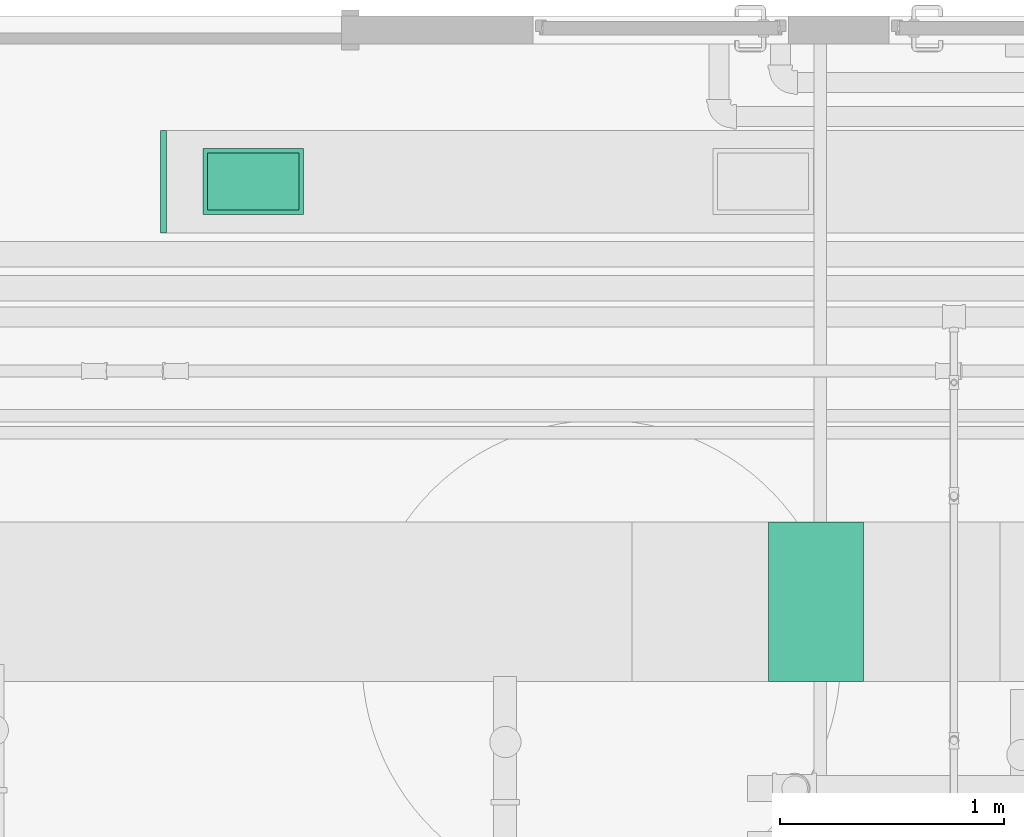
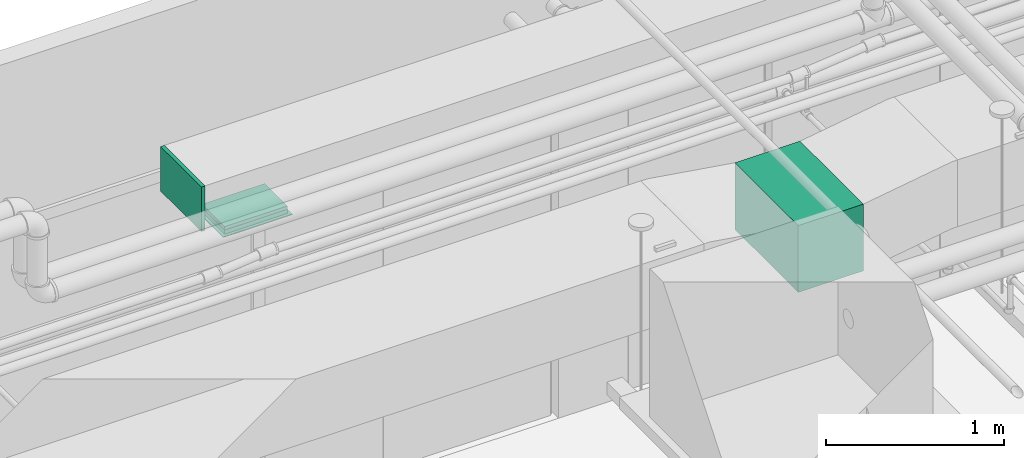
# One storey, part 59 of 108: 2 duct segments, 1 air terminal, 1 duct fitting.
"""IFC4 building model written with IfcOpenShell, lengths in feet."""

from ifc_helpers import new_model, entity, si_unit, converted_unit, derived_unit, direction, frame, frame_2d, origin, origin_2d_with_axis, place, context, subcontext, project, spatial, rectangle, extrude, source, transform, mapped, type_object, type_shapes, element, save


model = new_model("IFC4")

# Units and contexts
model_context = context("Model", 3, precision=0.0001, world=origin(), true_north=direction((6.12303176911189e-17, 1.0)))
body_context = subcontext(model_context, "Body", "Model", "MODEL_VIEW")
ifc_project = project(units=[converted_unit("LENGTHUNIT", "FOOT", entity("IfcRatioMeasure", 0.3048), si_unit("LENGTHUNIT", "METRE"), dimensions=[1, 0, 0, 0, 0, 0, 0]), converted_unit("AREAUNIT", "SQUARE FOOT", entity("IfcRatioMeasure", 0.09290304), si_unit("AREAUNIT", "SQUARE_METRE"), dimensions=[2, 0, 0, 0, 0, 0, 0]), converted_unit("VOLUMEUNIT", "CUBIC FOOT", entity("IfcRatioMeasure", 0.028316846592), si_unit("VOLUMEUNIT", "CUBIC_METRE"), dimensions=[3, 0, 0, 0, 0, 0, 0]), converted_unit("PLANEANGLEUNIT", "DEGREE", entity("IfcRatioMeasure", 0.0174532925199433), si_unit("PLANEANGLEUNIT", "RADIAN"), dimensions=[0, 0, 0, 0, 0, 0, 0]), si_unit("MASSUNIT", "GRAM", prefix="KILO"), derived_unit("MASSDENSITYUNIT", [(si_unit("MASSUNIT", "GRAM", prefix="KILO"), 1), (si_unit("LENGTHUNIT", "METRE"), -3)]), si_unit("TIMEUNIT", "SECOND"), si_unit("FREQUENCYUNIT", "HERTZ"), si_unit("THERMODYNAMICTEMPERATUREUNIT", "DEGREE_CELSIUS"), derived_unit("THERMALTRANSMITTANCEUNIT", [(si_unit("MASSUNIT", "GRAM", prefix="KILO"), 1), (si_unit("THERMODYNAMICTEMPERATUREUNIT", "KELVIN"), -1), (si_unit("TIMEUNIT", "SECOND"), -3)]), derived_unit("VOLUMETRICFLOWRATEUNIT", [(si_unit("LENGTHUNIT", "METRE"), 3), (si_unit("TIMEUNIT", "SECOND"), -1)]), si_unit("ELECTRICCURRENTUNIT", "AMPERE"), si_unit("ELECTRICVOLTAGEUNIT", "VOLT"), si_unit("POWERUNIT", "WATT"), si_unit("FORCEUNIT", "NEWTON"), si_unit("ILLUMINANCEUNIT", "LUX"), si_unit("LUMINOUSFLUXUNIT", "LUMEN"), si_unit("LUMINOUSINTENSITYUNIT", "CANDELA"), derived_unit("USERDEFINED", [(si_unit("MASSUNIT", "GRAM", prefix="KILO"), -1), (si_unit("LENGTHUNIT", "METRE"), -2), (si_unit("TIMEUNIT", "SECOND"), 3), (si_unit("LUMINOUSFLUXUNIT", "LUMEN"), 1)]), derived_unit("LINEARVELOCITYUNIT", [(si_unit("LENGTHUNIT", "METRE"), 1), (si_unit("TIMEUNIT", "SECOND"), -1)]), si_unit("PRESSUREUNIT", "PASCAL"), derived_unit("USERDEFINED", [(si_unit("LENGTHUNIT", "METRE"), -2), (si_unit("MASSUNIT", "GRAM", prefix="KILO"), 1), (si_unit("TIMEUNIT", "SECOND"), -2)])], contexts=[model_context])

# Site, building, storey
site_placement = place(None, origin())
site = spatial("IfcSite", under=ifc_project, at=site_placement, Name="Default", CompositionType="ELEMENT")
building_placement = place(site_placement, origin())
building = spatial("IfcBuilding", under=site, at=building_placement, CompositionType="ELEMENT")
storey_placement = place(building_placement, frame((0.0, 0.0, 168.0)))
storey = spatial("IfcBuildingStorey", under=building, at=storey_placement, Name="Level 15", CompositionType="ELEMENT", Elevation=168.0)

# Duct segments
duct_segment_type = type_object("IfcDuctSegmentType", Name="Rectangular Duct:Square Throat Elbows / S&D", PredefinedType="NOTDEFINED")
duct_segment_1_placement = place(storey_placement, frame((-44.4244066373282, 12.7762257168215, 8.67447916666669)))
element("IfcDuctSegment", 1, at=duct_segment_1_placement, inside=storey, type_object=duct_segment_type, Name="Rectangular Duct:Square Throat Elbows / S&D", ObjectType="Rectangular Duct:Square Throat Elbows / S&D", PredefinedType="NOTDEFINED", context=body_context, shape_type="SweptSolid", body=[
    extrude(rectangle(XDim=1.33333333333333, YDim=0.833333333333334, at=frame_2d((-7.105427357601e-15, -8.88178419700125e-16), x_axis=(1.0, 0.0))), frame((0.666666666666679, 0.416666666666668, 0.0)), (0.0, 0.0, 1.0), 0.0755208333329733),
])
duct_segment_2_placement = place(storey_placement, frame((-36.2167979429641, 5.87655734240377, 8.58333333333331)))
element("IfcDuctSegment", 2, at=duct_segment_2_placement, inside=storey, type_object=duct_segment_type, Name="Rectangular Duct:Square Throat Elbows / S&D", ObjectType="Rectangular Duct:Square Throat Elbows / S&D", PredefinedType="NOTDEFINED", context=body_context, shape_type="SweptSolid", body=[
    extrude(rectangle(XDim=1.38527356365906, YDim=2.33333333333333, at=origin_2d_with_axis()), frame((0.692636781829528, 1.16666666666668, 0.0)), (0.0, 0.0, 1.0), 1.5),
])

# Duct fitting
duct_fitting_type = type_object("IfcDuctFittingType", Name="Standard", PredefinedType="NOTDEFINED")
shared_shape_1 = source(origin(), body_context, "Body", "SweptSolid", [
    extrude(rectangle(XDim=1.5, YDim=0.0833333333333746, at=frame_2d((0.0, 6.17561557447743e-16), x_axis=(1.0, 0.0))), frame((0.0416666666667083, 0.0, -0.500000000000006), z_axis=(0.0, 0.0, 1.0), x_axis=(0.0, -1.0, 0.0)), (0.0, 0.0, 1.0), 1.0),
])
type_shapes(duct_fitting_type, [shared_shape_1])
duct_fitting_placement = place(storey_placement, frame((-45.0291870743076, 13.1928923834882, 9.583333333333), z_axis=(0.0, 0.0, 1.0), x_axis=(-1.0, 0.0, 0.0)))
element("IfcDuctFitting", 3, at=duct_fitting_placement, inside=storey, type_object=duct_fitting_type, Name="Rectangular Endcap:Standard", ObjectType="Rectangular Endcap:Standard", PredefinedType="NOTDEFINED", context=body_context, shape_type="MappedRepresentation", body=[
    mapped(shared_shape_1, transform((0.0, 0.0, 0.0), scale=1.0)),
])

# Air terminal
air_terminal_type = type_object("IfcAirTerminalType", Name="16x10", PredefinedType="NOTDEFINED")
cartesian_point_1 = entity("IfcCartesianPoint", [0.734375, -0.015625, 0.484374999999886])
vertex_point_1 = entity("IfcVertexPoint", cartesian_point_1)
cartesian_point_2 = entity("IfcCartesianPoint", [-0.734375, -0.015625, 0.484374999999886])
vertex_point_2 = entity("IfcVertexPoint", cartesian_point_2)
ifc_direction_1 = entity("IfcDirection", [-1.0, 0.0, 0.0])
edge_curve_1 = entity("IfcEdgeCurve", vertex_point_1, vertex_point_2, entity("IfcTrimmedCurve", entity("IfcLine", cartesian_point_1, entity("IfcVector", ifc_direction_1, 1.0)), [cartesian_point_1], [cartesian_point_2], True, "CARTESIAN"), True)
cartesian_point_3 = entity("IfcCartesianPoint", [-0.734375, -0.015625, -0.484374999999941])
vertex_point_3 = entity("IfcVertexPoint", cartesian_point_3)
ifc_direction_2 = entity("IfcDirection", [0.0, 0.0, -1.0])
edge_curve_2 = entity("IfcEdgeCurve", vertex_point_2, vertex_point_3, entity("IfcTrimmedCurve", entity("IfcLine", cartesian_point_2, entity("IfcVector", ifc_direction_2, 1.0)), [cartesian_point_2], [cartesian_point_3], True, "CARTESIAN"), True)
cartesian_point_4 = entity("IfcCartesianPoint", [0.734375, -0.015625, -0.484374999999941])
vertex_point_4 = entity("IfcVertexPoint", cartesian_point_4)
ifc_direction_3 = entity("IfcDirection", [1.0, 0.0, 0.0])
edge_curve_3 = entity("IfcEdgeCurve", vertex_point_3, vertex_point_4, entity("IfcTrimmedCurve", entity("IfcLine", cartesian_point_3, entity("IfcVector", ifc_direction_3, 1.0)), [cartesian_point_3], [cartesian_point_4], True, "CARTESIAN"), True)
ifc_direction_4 = entity("IfcDirection", [0.0, 0.0, 1.0])
edge_curve_4 = entity("IfcEdgeCurve", vertex_point_4, vertex_point_1, entity("IfcTrimmedCurve", entity("IfcLine", cartesian_point_4, entity("IfcVector", ifc_direction_4, 1.0)), [cartesian_point_4], [cartesian_point_1], True, "CARTESIAN"), True)
ifc_direction_5 = entity("IfcDirection", [0.0, -1.0, 0.0])
cartesian_point_5 = entity("IfcCartesianPoint", [0.734375, 0.0, 0.484374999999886])
vertex_point_5 = entity("IfcVertexPoint", cartesian_point_5)
cartesian_point_6 = entity("IfcCartesianPoint", [0.734375, 0.0, -0.484374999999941])
vertex_point_6 = entity("IfcVertexPoint", cartesian_point_6)
edge_curve_5 = entity("IfcEdgeCurve", vertex_point_5, vertex_point_6, entity("IfcTrimmedCurve", entity("IfcLine", cartesian_point_5, entity("IfcVector", ifc_direction_2, 1.0)), [cartesian_point_5], [cartesian_point_6], True, "CARTESIAN"), True)
cartesian_point_7 = entity("IfcCartesianPoint", [-0.734375, 0.0, -0.484374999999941])
vertex_point_7 = entity("IfcVertexPoint", cartesian_point_7)
edge_curve_6 = entity("IfcEdgeCurve", vertex_point_6, vertex_point_7, entity("IfcTrimmedCurve", entity("IfcLine", cartesian_point_6, entity("IfcVector", ifc_direction_1, 1.0)), [cartesian_point_6], [cartesian_point_7], True, "CARTESIAN"), True)
cartesian_point_8 = entity("IfcCartesianPoint", [-0.734375, 0.0, 0.484374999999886])
vertex_point_8 = entity("IfcVertexPoint", cartesian_point_8)
edge_curve_7 = entity("IfcEdgeCurve", vertex_point_7, vertex_point_8, entity("IfcTrimmedCurve", entity("IfcLine", cartesian_point_7, entity("IfcVector", ifc_direction_4, 1.0)), [cartesian_point_7], [cartesian_point_8], True, "CARTESIAN"), True)
edge_curve_8 = entity("IfcEdgeCurve", vertex_point_8, vertex_point_5, entity("IfcTrimmedCurve", entity("IfcLine", cartesian_point_8, entity("IfcVector", ifc_direction_3, 1.0)), [cartesian_point_8], [cartesian_point_5], True, "CARTESIAN"), True)
cartesian_point_9 = entity("IfcCartesianPoint", [-0.666666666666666, 0.0, 0.416666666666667])
vertex_point_9 = entity("IfcVertexPoint", cartesian_point_9)
cartesian_point_10 = entity("IfcCartesianPoint", [-0.666666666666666, 0.0, -0.416666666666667])
vertex_point_10 = entity("IfcVertexPoint", cartesian_point_10)
edge_curve_9 = entity("IfcEdgeCurve", vertex_point_9, vertex_point_10, entity("IfcTrimmedCurve", entity("IfcLine", cartesian_point_9, entity("IfcVector", ifc_direction_2, 1.0)), [cartesian_point_9], [cartesian_point_10], True, "CARTESIAN"), True)
cartesian_point_11 = entity("IfcCartesianPoint", [0.666666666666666, 0.0, -0.416666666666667])
vertex_point_11 = entity("IfcVertexPoint", cartesian_point_11)
edge_curve_10 = entity("IfcEdgeCurve", vertex_point_10, vertex_point_11, entity("IfcTrimmedCurve", entity("IfcLine", cartesian_point_10, entity("IfcVector", ifc_direction_3, 1.0)), [cartesian_point_10], [cartesian_point_11], True, "CARTESIAN"), True)
cartesian_point_12 = entity("IfcCartesianPoint", [0.666666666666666, 0.0, 0.416666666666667])
vertex_point_12 = entity("IfcVertexPoint", cartesian_point_12)
edge_curve_11 = entity("IfcEdgeCurve", vertex_point_11, vertex_point_12, entity("IfcTrimmedCurve", entity("IfcLine", cartesian_point_11, entity("IfcVector", ifc_direction_4, 1.0)), [cartesian_point_11], [cartesian_point_12], True, "CARTESIAN"), True)
edge_curve_12 = entity("IfcEdgeCurve", vertex_point_12, vertex_point_9, entity("IfcTrimmedCurve", entity("IfcLine", cartesian_point_12, entity("IfcVector", ifc_direction_1, 1.0)), [cartesian_point_12], [cartesian_point_9], True, "CARTESIAN"), True)
ifc_direction_6 = entity("IfcDirection", [0.0, 1.0, 0.0])
edge_curve_13 = entity("IfcEdgeCurve", vertex_point_1, vertex_point_5, entity("IfcTrimmedCurve", entity("IfcLine", cartesian_point_1, entity("IfcVector", ifc_direction_6, 1.0)), [cartesian_point_1], [cartesian_point_5], True, "CARTESIAN"), True)
edge_curve_14 = entity("IfcEdgeCurve", vertex_point_8, vertex_point_2, entity("IfcTrimmedCurve", entity("IfcLine", cartesian_point_2, entity("IfcVector", ifc_direction_5, 1.0)), [cartesian_point_8], [cartesian_point_2], True, "CARTESIAN"), True)
edge_curve_15 = entity("IfcEdgeCurve", vertex_point_7, vertex_point_3, entity("IfcTrimmedCurve", entity("IfcLine", cartesian_point_3, entity("IfcVector", ifc_direction_5, 1.0)), [cartesian_point_7], [cartesian_point_3], True, "CARTESIAN"), True)
edge_curve_16 = entity("IfcEdgeCurve", vertex_point_6, vertex_point_4, entity("IfcTrimmedCurve", entity("IfcLine", cartesian_point_4, entity("IfcVector", ifc_direction_5, 1.0)), [cartesian_point_6], [cartesian_point_4], True, "CARTESIAN"), True)
cartesian_point_13 = entity("IfcCartesianPoint", [-0.666666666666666, 0.08984375, 0.416666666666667])
vertex_point_13 = entity("IfcVertexPoint", cartesian_point_13)
cartesian_point_14 = entity("IfcCartesianPoint", [0.666666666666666, 0.08984375, 0.416666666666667])
vertex_point_14 = entity("IfcVertexPoint", cartesian_point_14)
edge_curve_17 = entity("IfcEdgeCurve", vertex_point_13, vertex_point_14, entity("IfcTrimmedCurve", entity("IfcLine", cartesian_point_13, entity("IfcVector", ifc_direction_3, 1.0)), [cartesian_point_13], [cartesian_point_14], True, "CARTESIAN"), True)
cartesian_point_15 = entity("IfcCartesianPoint", [0.666666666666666, 0.08984375, -0.416666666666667])
vertex_point_15 = entity("IfcVertexPoint", cartesian_point_15)
edge_curve_18 = entity("IfcEdgeCurve", vertex_point_14, vertex_point_15, entity("IfcTrimmedCurve", entity("IfcLine", cartesian_point_14, entity("IfcVector", ifc_direction_2, 1.0)), [cartesian_point_14], [cartesian_point_15], True, "CARTESIAN"), True)
cartesian_point_16 = entity("IfcCartesianPoint", [-0.666666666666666, 0.08984375, -0.416666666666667])
vertex_point_16 = entity("IfcVertexPoint", cartesian_point_16)
edge_curve_19 = entity("IfcEdgeCurve", vertex_point_15, vertex_point_16, entity("IfcTrimmedCurve", entity("IfcLine", cartesian_point_15, entity("IfcVector", ifc_direction_1, 1.0)), [cartesian_point_15], [cartesian_point_16], True, "CARTESIAN"), True)
edge_curve_20 = entity("IfcEdgeCurve", vertex_point_16, vertex_point_13, entity("IfcTrimmedCurve", entity("IfcLine", cartesian_point_16, entity("IfcVector", ifc_direction_4, 1.0)), [cartesian_point_16], [cartesian_point_13], True, "CARTESIAN"), True)
cartesian_point_17 = entity("IfcCartesianPoint", [-0.645833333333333, 0.08984375, 0.395833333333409])
vertex_point_17 = entity("IfcVertexPoint", cartesian_point_17)
cartesian_point_18 = entity("IfcCartesianPoint", [-0.645833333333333, 0.08984375, -0.39583333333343])
vertex_point_18 = entity("IfcVertexPoint", cartesian_point_18)
edge_curve_21 = entity("IfcEdgeCurve", vertex_point_17, vertex_point_18, entity("IfcTrimmedCurve", entity("IfcLine", cartesian_point_17, entity("IfcVector", ifc_direction_2, 1.0)), [cartesian_point_17], [cartesian_point_18], True, "CARTESIAN"), True)
cartesian_point_19 = entity("IfcCartesianPoint", [0.645833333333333, 0.08984375, -0.39583333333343])
vertex_point_19 = entity("IfcVertexPoint", cartesian_point_19)
edge_curve_22 = entity("IfcEdgeCurve", vertex_point_18, vertex_point_19, entity("IfcTrimmedCurve", entity("IfcLine", cartesian_point_18, entity("IfcVector", ifc_direction_3, 1.0)), [cartesian_point_18], [cartesian_point_19], True, "CARTESIAN"), True)
cartesian_point_20 = entity("IfcCartesianPoint", [0.645833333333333, 0.08984375, 0.395833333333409])
vertex_point_20 = entity("IfcVertexPoint", cartesian_point_20)
edge_curve_23 = entity("IfcEdgeCurve", vertex_point_19, vertex_point_20, entity("IfcTrimmedCurve", entity("IfcLine", cartesian_point_19, entity("IfcVector", ifc_direction_4, 1.0)), [cartesian_point_19], [cartesian_point_20], True, "CARTESIAN"), True)
edge_curve_24 = entity("IfcEdgeCurve", vertex_point_20, vertex_point_17, entity("IfcTrimmedCurve", entity("IfcLine", cartesian_point_20, entity("IfcVector", ifc_direction_1, 1.0)), [cartesian_point_20], [cartesian_point_17], True, "CARTESIAN"), True)
edge_curve_25 = entity("IfcEdgeCurve", vertex_point_16, vertex_point_10, entity("IfcTrimmedCurve", entity("IfcLine", cartesian_point_10, entity("IfcVector", ifc_direction_5, 1.0)), [cartesian_point_16], [cartesian_point_10], True, "CARTESIAN"), True)
edge_curve_26 = entity("IfcEdgeCurve", vertex_point_9, vertex_point_13, entity("IfcTrimmedCurve", entity("IfcLine", cartesian_point_9, entity("IfcVector", ifc_direction_6, 1.0)), [cartesian_point_9], [cartesian_point_13], True, "CARTESIAN"), True)
edge_curve_27 = entity("IfcEdgeCurve", vertex_point_15, vertex_point_11, entity("IfcTrimmedCurve", entity("IfcLine", cartesian_point_11, entity("IfcVector", ifc_direction_5, 1.0)), [cartesian_point_15], [cartesian_point_11], True, "CARTESIAN"), True)
edge_curve_28 = entity("IfcEdgeCurve", vertex_point_14, vertex_point_12, entity("IfcTrimmedCurve", entity("IfcLine", cartesian_point_12, entity("IfcVector", ifc_direction_5, 1.0)), [cartesian_point_14], [cartesian_point_12], True, "CARTESIAN"), True)
cartesian_point_21 = entity("IfcCartesianPoint", [-0.645833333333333, 0.0911458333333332, 0.395833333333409])
vertex_point_21 = entity("IfcVertexPoint", cartesian_point_21)
cartesian_point_22 = entity("IfcCartesianPoint", [0.645833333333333, 0.0911458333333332, 0.395833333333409])
vertex_point_22 = entity("IfcVertexPoint", cartesian_point_22)
edge_curve_29 = entity("IfcEdgeCurve", vertex_point_21, vertex_point_22, entity("IfcTrimmedCurve", entity("IfcLine", cartesian_point_21, entity("IfcVector", ifc_direction_3, 1.0)), [cartesian_point_21], [cartesian_point_22], True, "CARTESIAN"), True)
cartesian_point_23 = entity("IfcCartesianPoint", [0.645833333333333, 0.0911458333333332, -0.39583333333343])
vertex_point_23 = entity("IfcVertexPoint", cartesian_point_23)
edge_curve_30 = entity("IfcEdgeCurve", vertex_point_22, vertex_point_23, entity("IfcTrimmedCurve", entity("IfcLine", cartesian_point_22, entity("IfcVector", ifc_direction_2, 1.0)), [cartesian_point_22], [cartesian_point_23], True, "CARTESIAN"), True)
cartesian_point_24 = entity("IfcCartesianPoint", [-0.645833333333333, 0.0911458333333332, -0.39583333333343])
vertex_point_24 = entity("IfcVertexPoint", cartesian_point_24)
edge_curve_31 = entity("IfcEdgeCurve", vertex_point_23, vertex_point_24, entity("IfcTrimmedCurve", entity("IfcLine", cartesian_point_23, entity("IfcVector", ifc_direction_1, 1.0)), [cartesian_point_23], [cartesian_point_24], True, "CARTESIAN"), True)
edge_curve_32 = entity("IfcEdgeCurve", vertex_point_24, vertex_point_21, entity("IfcTrimmedCurve", entity("IfcLine", cartesian_point_24, entity("IfcVector", ifc_direction_4, 1.0)), [cartesian_point_24], [cartesian_point_21], True, "CARTESIAN"), True)
edge_curve_33 = entity("IfcEdgeCurve", vertex_point_24, vertex_point_18, entity("IfcTrimmedCurve", entity("IfcLine", cartesian_point_18, entity("IfcVector", ifc_direction_5, 1.0)), [cartesian_point_24], [cartesian_point_18], True, "CARTESIAN"), True)
edge_curve_34 = entity("IfcEdgeCurve", vertex_point_17, vertex_point_21, entity("IfcTrimmedCurve", entity("IfcLine", cartesian_point_17, entity("IfcVector", ifc_direction_6, 1.0)), [cartesian_point_17], [cartesian_point_21], True, "CARTESIAN"), True)
edge_curve_35 = entity("IfcEdgeCurve", vertex_point_23, vertex_point_19, entity("IfcTrimmedCurve", entity("IfcLine", cartesian_point_19, entity("IfcVector", ifc_direction_5, 1.0)), [cartesian_point_23], [cartesian_point_19], True, "CARTESIAN"), True)
edge_curve_36 = entity("IfcEdgeCurve", vertex_point_22, vertex_point_20, entity("IfcTrimmedCurve", entity("IfcLine", cartesian_point_20, entity("IfcVector", ifc_direction_5, 1.0)), [cartesian_point_22], [cartesian_point_20], True, "CARTESIAN"), True)
shared_shape_2 = source(origin(), body_context, "Body", "AdvancedBrep", [
    entity("IfcAdvancedBrep", entity("IfcClosedShell", [entity("IfcAdvancedFace", [entity("IfcFaceOuterBound", entity("IfcEdgeLoop", [entity("IfcOrientedEdge", None, None, edge_curve_1, True), entity("IfcOrientedEdge", None, None, edge_curve_2, True), entity("IfcOrientedEdge", None, None, edge_curve_3, True), entity("IfcOrientedEdge", None, None, edge_curve_4, True)]), True)], entity("IfcPlane", entity("IfcAxis2Placement3D", cartesian_point_2, ifc_direction_5, ifc_direction_1)), True), entity("IfcAdvancedFace", [entity("IfcFaceOuterBound", entity("IfcEdgeLoop", [entity("IfcOrientedEdge", None, None, edge_curve_5, True), entity("IfcOrientedEdge", None, None, edge_curve_6, True), entity("IfcOrientedEdge", None, None, edge_curve_7, True), entity("IfcOrientedEdge", None, None, edge_curve_8, True)]), True), entity("IfcFaceBound", entity("IfcEdgeLoop", [entity("IfcOrientedEdge", None, None, edge_curve_9, True), entity("IfcOrientedEdge", None, None, edge_curve_10, True), entity("IfcOrientedEdge", None, None, edge_curve_11, True), entity("IfcOrientedEdge", None, None, edge_curve_12, True)]), False)], entity("IfcPlane", entity("IfcAxis2Placement3D", cartesian_point_8, ifc_direction_6, ifc_direction_3)), True), entity("IfcAdvancedFace", [entity("IfcFaceOuterBound", entity("IfcEdgeLoop", [entity("IfcOrientedEdge", None, None, edge_curve_1, False), entity("IfcOrientedEdge", None, None, edge_curve_13, True), entity("IfcOrientedEdge", None, None, edge_curve_8, False), entity("IfcOrientedEdge", None, None, edge_curve_14, True)]), True)], entity("IfcPlane", entity("IfcAxis2Placement3D", cartesian_point_1, ifc_direction_4, ifc_direction_6)), True), entity("IfcAdvancedFace", [entity("IfcFaceOuterBound", entity("IfcEdgeLoop", [entity("IfcOrientedEdge", None, None, edge_curve_2, False), entity("IfcOrientedEdge", None, None, edge_curve_14, False), entity("IfcOrientedEdge", None, None, edge_curve_7, False), entity("IfcOrientedEdge", None, None, edge_curve_15, True)]), True)], entity("IfcPlane", entity("IfcAxis2Placement3D", cartesian_point_2, ifc_direction_1, ifc_direction_6)), True), entity("IfcAdvancedFace", [entity("IfcFaceOuterBound", entity("IfcEdgeLoop", [entity("IfcOrientedEdge", None, None, edge_curve_3, False), entity("IfcOrientedEdge", None, None, edge_curve_15, False), entity("IfcOrientedEdge", None, None, edge_curve_6, False), entity("IfcOrientedEdge", None, None, edge_curve_16, True)]), True)], entity("IfcPlane", entity("IfcAxis2Placement3D", cartesian_point_3, ifc_direction_2, ifc_direction_6)), True), entity("IfcAdvancedFace", [entity("IfcFaceOuterBound", entity("IfcEdgeLoop", [entity("IfcOrientedEdge", None, None, edge_curve_4, False), entity("IfcOrientedEdge", None, None, edge_curve_16, False), entity("IfcOrientedEdge", None, None, edge_curve_5, False), entity("IfcOrientedEdge", None, None, edge_curve_13, False)]), True)], entity("IfcPlane", entity("IfcAxis2Placement3D", cartesian_point_4, ifc_direction_3, ifc_direction_6)), True), entity("IfcAdvancedFace", [entity("IfcFaceOuterBound", entity("IfcEdgeLoop", [entity("IfcOrientedEdge", None, None, edge_curve_17, True), entity("IfcOrientedEdge", None, None, edge_curve_18, True), entity("IfcOrientedEdge", None, None, edge_curve_19, True), entity("IfcOrientedEdge", None, None, edge_curve_20, True)]), True), entity("IfcFaceBound", entity("IfcEdgeLoop", [entity("IfcOrientedEdge", None, None, edge_curve_21, True), entity("IfcOrientedEdge", None, None, edge_curve_22, True), entity("IfcOrientedEdge", None, None, edge_curve_23, True), entity("IfcOrientedEdge", None, None, edge_curve_24, True)]), False)], entity("IfcPlane", entity("IfcAxis2Placement3D", cartesian_point_13, ifc_direction_6, ifc_direction_4)), True), entity("IfcAdvancedFace", [entity("IfcFaceOuterBound", entity("IfcEdgeLoop", [entity("IfcOrientedEdge", None, None, edge_curve_20, False), entity("IfcOrientedEdge", None, None, edge_curve_25, True), entity("IfcOrientedEdge", None, None, edge_curve_9, False), entity("IfcOrientedEdge", None, None, edge_curve_26, True)]), True)], entity("IfcPlane", entity("IfcAxis2Placement3D", cartesian_point_9, ifc_direction_1, ifc_direction_6)), True), entity("IfcAdvancedFace", [entity("IfcFaceOuterBound", entity("IfcEdgeLoop", [entity("IfcOrientedEdge", None, None, edge_curve_19, False), entity("IfcOrientedEdge", None, None, edge_curve_27, True), entity("IfcOrientedEdge", None, None, edge_curve_10, False), entity("IfcOrientedEdge", None, None, edge_curve_25, False)]), True)], entity("IfcPlane", entity("IfcAxis2Placement3D", cartesian_point_10, ifc_direction_2, ifc_direction_6)), True), entity("IfcAdvancedFace", [entity("IfcFaceOuterBound", entity("IfcEdgeLoop", [entity("IfcOrientedEdge", None, None, edge_curve_18, False), entity("IfcOrientedEdge", None, None, edge_curve_28, True), entity("IfcOrientedEdge", None, None, edge_curve_11, False), entity("IfcOrientedEdge", None, None, edge_curve_27, False)]), True)], entity("IfcPlane", entity("IfcAxis2Placement3D", cartesian_point_11, ifc_direction_3, ifc_direction_6)), True), entity("IfcAdvancedFace", [entity("IfcFaceOuterBound", entity("IfcEdgeLoop", [entity("IfcOrientedEdge", None, None, edge_curve_17, False), entity("IfcOrientedEdge", None, None, edge_curve_26, False), entity("IfcOrientedEdge", None, None, edge_curve_12, False), entity("IfcOrientedEdge", None, None, edge_curve_28, False)]), True)], entity("IfcPlane", entity("IfcAxis2Placement3D", cartesian_point_12, ifc_direction_4, ifc_direction_6)), True), entity("IfcAdvancedFace", [entity("IfcFaceOuterBound", entity("IfcEdgeLoop", [entity("IfcOrientedEdge", None, None, edge_curve_29, True), entity("IfcOrientedEdge", None, None, edge_curve_30, True), entity("IfcOrientedEdge", None, None, edge_curve_31, True), entity("IfcOrientedEdge", None, None, edge_curve_32, True)]), True)], entity("IfcPlane", entity("IfcAxis2Placement3D", cartesian_point_21, ifc_direction_6, ifc_direction_4)), True), entity("IfcAdvancedFace", [entity("IfcFaceOuterBound", entity("IfcEdgeLoop", [entity("IfcOrientedEdge", None, None, edge_curve_32, False), entity("IfcOrientedEdge", None, None, edge_curve_33, True), entity("IfcOrientedEdge", None, None, edge_curve_21, False), entity("IfcOrientedEdge", None, None, edge_curve_34, True)]), True)], entity("IfcPlane", entity("IfcAxis2Placement3D", cartesian_point_17, ifc_direction_1, ifc_direction_6)), True), entity("IfcAdvancedFace", [entity("IfcFaceOuterBound", entity("IfcEdgeLoop", [entity("IfcOrientedEdge", None, None, edge_curve_31, False), entity("IfcOrientedEdge", None, None, edge_curve_35, True), entity("IfcOrientedEdge", None, None, edge_curve_22, False), entity("IfcOrientedEdge", None, None, edge_curve_33, False)]), True)], entity("IfcPlane", entity("IfcAxis2Placement3D", cartesian_point_18, ifc_direction_2, ifc_direction_6)), True), entity("IfcAdvancedFace", [entity("IfcFaceOuterBound", entity("IfcEdgeLoop", [entity("IfcOrientedEdge", None, None, edge_curve_30, False), entity("IfcOrientedEdge", None, None, edge_curve_36, True), entity("IfcOrientedEdge", None, None, edge_curve_23, False), entity("IfcOrientedEdge", None, None, edge_curve_35, False)]), True)], entity("IfcPlane", entity("IfcAxis2Placement3D", cartesian_point_19, ifc_direction_3, ifc_direction_6)), True), entity("IfcAdvancedFace", [entity("IfcFaceOuterBound", entity("IfcEdgeLoop", [entity("IfcOrientedEdge", None, None, edge_curve_29, False), entity("IfcOrientedEdge", None, None, edge_curve_34, False), entity("IfcOrientedEdge", None, None, edge_curve_24, False), entity("IfcOrientedEdge", None, None, edge_curve_36, False)]), True)], entity("IfcPlane", entity("IfcAxis2Placement3D", cartesian_point_20, ifc_direction_4, ifc_direction_6)), True)])),
])
type_shapes(air_terminal_type, [shared_shape_2])
air_terminal_placement = place(storey_placement, frame((-43.7577399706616, 13.1928923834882, 8.58333333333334), z_axis=(0.0, -1.0, 0.0), x_axis=(1.0, 0.0, 0.0)))
element("IfcAirTerminal", 4, at=air_terminal_placement, inside=storey, type_object=air_terminal_type, Name="Supply Diffuser - Sidewall:16x10", ObjectType="Supply Diffuser - Sidewall:16x10", PredefinedType="NOTDEFINED", context=body_context, shape_type="MappedRepresentation", body=[
    mapped(shared_shape_2, transform((0.0, 0.0, 0.0), scale=1.0)),
])

save(model, "model.ifc")
